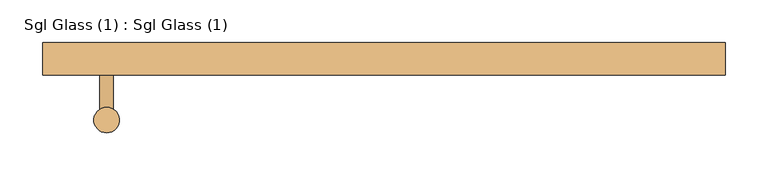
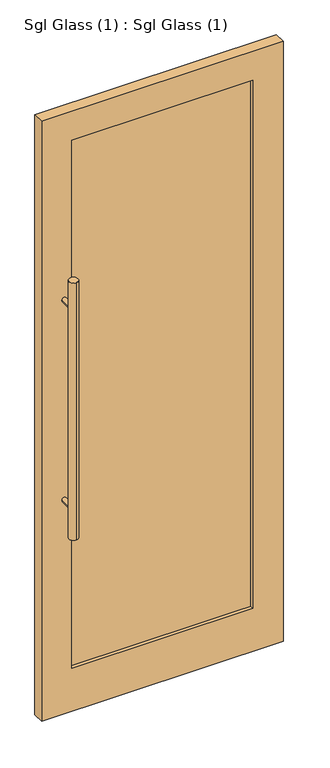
"""IFC4 building model written with IfcOpenShell, lengths in millimetres: door geometry, Sgl Glass (1) : Sgl Glass (1)."""

import ifcopenshell
import ifcopenshell.guid

model = None  # the IFC model being written
_history = None  # IfcOwnerHistory: only IFC2X3 demands one
_inside = {}  # id of a spatial element -> (the spatial element, [elements in it])
_under = {}  # id of a project, library or spatial element -> (it, [spatial elements below it])
_declared = {}  # id of a project -> (the project, [libraries it declares])
_typed = {}  # id of a type object -> (the type object, [elements of that type])
_made_of = {}  # id of a material, layer set ... -> (it, [elements and type objects made of it])


def new_model(schema):
    """Start an empty IFC model of exactly this schema.

    Asked for "IFC4X3", IfcOpenShell would pick the latest addendum, in which some entities
    have other attributes; the version numbers below select the first issue.
    IFC2X3 requires an IfcOwnerHistory on every rooted entity: one is made here for all.
    """
    global model, _history
    if schema == "IFC4X3":
        model = ifcopenshell.file(schema_version=(4, 3, 0, 0))
    else:
        model = ifcopenshell.file(schema=schema)
    _inside.clear()
    _under.clear()
    _declared.clear()
    _typed.clear()
    _made_of.clear()
    _history = None
    if model.schema == "IFC2X3":
        org = make("IfcOrganization", Name="unknown")
        user = make(
            "IfcPersonAndOrganization",
            ThePerson=make("IfcPerson", FamilyName="unknown"),
            TheOrganization=org,
        )
        app = make(
            "IfcApplication",
            ApplicationDeveloper=org,
            Version="unknown",
            ApplicationFullName="unknown",
            ApplicationIdentifier="unknown",
        )
        _history = make(
            "IfcOwnerHistory",
            OwningUser=user,
            OwningApplication=app,
            ChangeAction="ADDED",
            CreationDate=0,
        )
    return model


def make(cls, **values):
    """One entity of the class cls with the attributes given. An attribute that is None is left unset."""
    return model.create_entity(
        cls, **{name: value for name, value in values.items() if value is not None}
    )


def rooted(cls, **values):
    """An entity with a GlobalId (a new one), such as an element, a storey or a relation."""
    return make(cls, GlobalId=ifcopenshell.guid.new(), OwnerHistory=_history, **values)


def si_unit(unit_type, name, prefix=None):
    """IfcSIUnit, for example si_unit("LENGTHUNIT", "METRE", prefix="MILLI")."""
    return make("IfcSIUnit", UnitType=unit_type, Prefix=prefix, Name=name)


def assignment(units):
    """IfcUnitAssignment: the units of a project."""
    return None if units is None else make("IfcUnitAssignment", Units=units)


def point(xyz):
    """IfcCartesianPoint."""
    return None if xyz is None else make("IfcCartesianPoint", Coordinates=xyz)


def direction(xyz):
    """IfcDirection."""
    return None if xyz is None else make("IfcDirection", DirectionRatios=xyz)


def frame(location, z_axis=None, x_axis=None):
    """IfcAxis2Placement3D, a coordinate frame: its origin and axes. An axis left out is left unset."""
    return make(
        "IfcAxis2Placement3D",
        Location=point(location),
        Axis=direction(z_axis),
        RefDirection=direction(x_axis),
    )


def frame_2d(location, x_axis=None):
    """IfcAxis2Placement2D, a coordinate frame in the plane: its origin and x axis."""
    return make(
        "IfcAxis2Placement2D", Location=point(location), RefDirection=direction(x_axis)
    )


def origin():
    """The frame at (0, 0, 0) with its axes left unset."""
    return frame((0.0, 0.0, 0.0))


def place(relative_to, where):
    """IfcLocalPlacement: puts the frame where relative to a parent placement (None: the world)."""
    return make(
        "IfcLocalPlacement", PlacementRelTo=relative_to, RelativePlacement=where
    )


def context(
    kind, dimensions, precision=None, world=None, true_north=None, identifier=None
):
    """IfcGeometricRepresentationContext, for example the 3D "Model" context."""
    return make(
        "IfcGeometricRepresentationContext",
        ContextIdentifier=identifier,
        ContextType=kind,
        CoordinateSpaceDimension=dimensions,
        Precision=precision,
        WorldCoordinateSystem=world,
        TrueNorth=true_north,
    )


def project(units=None, contexts=None):
    """IfcProject with its units and contexts."""
    return rooted(
        "IfcProject",
        Name="project",
        RepresentationContexts=contexts,
        UnitsInContext=assignment(units),
    )


def spatial(cls, under=None, at=None, **own):
    """A site, building, storey or space (cls), placed at a placement, below another one or the project."""
    s = rooted(cls, ObjectPlacement=at, **own)
    if under is not None:
        _under.setdefault(under.id(), (under, []))[1].append(s)
    return s


def polyline(points):
    """IfcPolyline through the points."""
    return make("IfcPolyline", Points=[point(p) for p in points])


def circle_curve(where, radius):
    """IfcCircle in the frame where."""
    return make("IfcCircle", Position=where, Radius=radius)


def trimmed(basis, trim1, trim2, sense, master):
    """IfcTrimmedCurve: the piece of a basis curve between two trims."""
    return make(
        "IfcTrimmedCurve",
        BasisCurve=basis,
        Trim1=trim1,
        Trim2=trim2,
        SenseAgreement=sense,
        MasterRepresentation=master,
    )


def segment(curve, same_sense, transition):
    """IfcCompositeCurveSegment."""
    return make(
        "IfcCompositeCurveSegment",
        Transition=transition,
        SameSense=same_sense,
        ParentCurve=curve,
    )


def composite_curve(segments, self_intersect=None):
    """IfcCompositeCurve: segments joined end to end."""
    return make("IfcCompositeCurve", Segments=segments, SelfIntersect=self_intersect)


def outline(outer, holes=None, kind="AREA"):
    """IfcArbitraryClosedProfileDef: a profile drawn as a closed curve; with holes, ...WithVoids."""
    if holes is None:
        return make("IfcArbitraryClosedProfileDef", ProfileType=kind, OuterCurve=outer)
    return make(
        "IfcArbitraryProfileDefWithVoids",
        ProfileType=kind,
        OuterCurve=outer,
        InnerCurves=holes,
    )


def extrude(swept, where, along, depth):
    """IfcExtrudedAreaSolid: the profile swept, set in the frame where, extruded along a direction by depth."""
    return make(
        "IfcExtrudedAreaSolid",
        SweptArea=swept,
        Position=where,
        ExtrudedDirection=direction(along),
        Depth=depth,
    )


def shape(context_of_items, identifier, shape_type, items):
    """IfcShapeRepresentation: the items that make up one representation, for example the "Body"."""
    return make(
        "IfcShapeRepresentation",
        ContextOfItems=context_of_items,
        RepresentationIdentifier=identifier,
        RepresentationType=shape_type,
        Items=items,
    )


def source(mapping_origin, context_of_items, identifier, shape_type, items):
    """IfcRepresentationMap: a shape defined once, which mapped items show again and again."""
    return make(
        "IfcRepresentationMap",
        MappingOrigin=mapping_origin,
        MappedRepresentation=shape(context_of_items, identifier, shape_type, items),
    )


def transform(
    local_origin,
    x_axis=None,
    y_axis=None,
    z_axis=None,
    scale=None,
    scale2=None,
    scale3=None,
    uniform=True,
):
    """IfcCartesianTransformationOperator3D, or its non-uniform kind. x_axis, y_axis, z_axis: its Axis1, 2, 3."""
    if uniform:
        return make(
            "IfcCartesianTransformationOperator3D",
            Axis1=direction(x_axis),
            Axis2=direction(y_axis),
            LocalOrigin=point(local_origin),
            Scale=scale,
            Axis3=direction(z_axis),
        )
    return make(
        "IfcCartesianTransformationOperator3DnonUniform",
        Axis1=direction(x_axis),
        Axis2=direction(y_axis),
        LocalOrigin=point(local_origin),
        Scale=scale,
        Axis3=direction(z_axis),
        Scale2=scale2,
        Scale3=scale3,
    )


def mapped(mapping_source, mapping_target):
    """IfcMappedItem: shows the shape of a source again, moved by a transform."""
    return make(
        "IfcMappedItem", MappingSource=mapping_source, MappingTarget=mapping_target
    )


def made_of(thing, what):
    """Note that an element or type object is made of a material, layer set ...; save() writes the relation."""
    if what is not None:
        _made_of.setdefault(what.id(), (what, []))[1].append(thing)
    return thing


def element(
    cls,
    number,
    at=None,
    inside=None,
    cuts=None,
    type_object=None,
    material=None,
    context=None,
    identifier="Body",
    shape_type=None,
    held_by="IfcProductDefinitionShape",
    body=None,
    shapes=None,
    **own,
):
    """One element of the class cls, such as IfcWall. Its Tag is "e" and its number.

    at: its placement. inside: the storey or other place that contains it. cuts: it is an
    opening in that element (IfcRelVoidsElement). A single representation is given by context,
    identifier, shape_type and body (its items); several are given by shapes. held_by: the class
    of the entity that holds the representations. save() writes the other relations.
    """
    e = rooted(cls, Tag="e%d" % number, ObjectPlacement=at, **own)
    if body is not None:
        shapes = [shape(context, identifier, shape_type, body)]
    if shapes is not None:
        e.Representation = make(held_by, Representations=shapes)
    if inside is not None:
        _inside.setdefault(inside.id(), (inside, []))[1].append(e)
    if cuts is not None:
        rooted(
            "IfcRelVoidsElement", RelatingBuildingElement=cuts, RelatedOpeningElement=e
        )
    if type_object is not None:
        _typed.setdefault(type_object.id(), (type_object, []))[1].append(e)
    return made_of(e, material)


def aggregate(whole, parts):
    """IfcRelAggregates: a whole, such as a stair, and the parts it consists of."""
    return rooted("IfcRelAggregates", RelatingObject=whole, RelatedObjects=parts)


def save(model, path):
    """Write the relations noted so far, then the file.

    IfcRelAggregates (storeys below a building ...), IfcRelContainedInSpatialStructure (elements
    in a storey), IfcRelDefinesByType, IfcRelAssociatesMaterial and IfcRelDeclares: one each for
    every whole, place, type object, material and project.
    """
    for whole, parts in _under.values():
        aggregate(whole, parts)
    for where, things in _inside.values():
        rooted(
            "IfcRelContainedInSpatialStructure",
            RelatedElements=things,
            RelatingStructure=where,
        )
    for kind, things in _typed.values():
        rooted("IfcRelDefinesByType", RelatedObjects=things, RelatingType=kind)
    for what, things in _made_of.values():
        rooted("IfcRelAssociatesMaterial", RelatedObjects=things, RelatingMaterial=what)
    for by, libraries in _declared.values():
        rooted("IfcRelDeclares", RelatingContext=by, RelatedDefinitions=libraries)
    model.write(path)


def sgl_glass_1_sgl_glass_1_d6d459c3(model_context):
    return source(origin(), model_context, "Body", "SweptSolid", [
        extrude(outline(polyline([(300.0, -50.0), (-300.0, -50.0), (-300.0, -38.0), (300.0, -38.0), (300.0, -50.0)])), frame((0.0, 0.0, 150.0), z_axis=(0.0, 0.0, 1.0), x_axis=(1.0, 0.0, 0.0)), (0.0, 0.0, 1.0), 1850.0),
        extrude(outline(composite_curve([segment(trimmed(circle_curve(frame_2d((-325.0, -116.0)), 15.0), [point((-325.0, -101.0))], [point((-325.0, -131.0))], False, "CARTESIAN"), True, "CONTINUOUS"), segment(trimmed(circle_curve(frame_2d((-325.0, -116.0)), 15.0), [point((-325.0, -131.0))], [point((-325.0, -101.0))], False, "CARTESIAN"), True, "CONTINUOUS")], self_intersect=False)), frame((0.0, 0.0, 650.0), z_axis=(0.0, 0.0, 1.0), x_axis=(1.0, 0.0, 0.0)), (0.0, 0.0, 1.0), 900.0),
        extrude(outline(composite_curve([segment(trimmed(circle_curve(frame_2d((750.0, -325.0)), 8.0), [point((750.0, -317.0))], [point((750.0, -333.0))], False, "CARTESIAN"), True, "CONTINUOUS"), segment(trimmed(circle_curve(frame_2d((750.0, -325.0)), 8.0), [point((750.0, -333.0))], [point((750.0, -317.0))], False, "CARTESIAN"), True, "CONTINUOUS")], self_intersect=False)), frame((0.0, -116.0, 0.0), z_axis=(0.0, 1.0, 0.0), x_axis=(0.0, 0.0, 1.0)), (0.0, 0.0, 1.0), 53.0),
        extrude(outline(composite_curve([segment(trimmed(circle_curve(frame_2d((1450.0, -325.0)), 8.0), [point((1450.0, -317.0))], [point((1450.0, -333.0))], False, "CARTESIAN"), True, "CONTINUOUS"), segment(trimmed(circle_curve(frame_2d((1450.0, -325.0)), 8.0), [point((1450.0, -333.0))], [point((1450.0, -317.0))], False, "CARTESIAN"), True, "CONTINUOUS")], self_intersect=False)), frame((0.0, -116.0, 0.0), z_axis=(0.0, 1.0, 0.0), x_axis=(0.0, 0.0, 1.0)), (0.0, 0.0, 1.0), 53.0),
        extrude(outline(polyline([(0.0, -400.0), (0.0, 400.0), (2100.0, 400.0), (2100.0, -400.0), (0.0, -400.0)]), holes=[polyline([(2000.0, 300.0), (150.0, 300.0), (150.0, -300.0), (2000.0, -300.0), (2000.0, 300.0)])]), frame((0.0, -63.0, 0.0), z_axis=(0.0, 1.0, 0.0), x_axis=(0.0, 0.0, 1.0)), (0.0, 0.0, 1.0), 38.0),
    ])


if __name__ == "__main__":
    model = new_model("IFC4")
    model_context = context("Model", 3, world=origin())
    ifc_project = project(units=[si_unit("LENGTHUNIT", "METRE", prefix="MILLI")], contexts=[model_context])
    site = spatial("IfcSite", under=ifc_project)
    building = spatial("IfcBuilding", under=site)
    placement = place(None, origin())
    sgl_glass_1_sgl_glass_1_shape = sgl_glass_1_sgl_glass_1_d6d459c3(model_context)
    element("IfcDoor", 1, ObjectType="Sgl Glass (1) : Sgl Glass (1)", at=placement, inside=building, context=model_context, shape_type="MappedRepresentation", body=[
        mapped(sgl_glass_1_sgl_glass_1_shape, transform((0.0, 0.0, 0.0), x_axis=(1.0, 0.0, 0.0), y_axis=(0.0, 1.0, 0.0), z_axis=(0.0, 0.0, 1.0))),
    ])
    save(model, "model.ifc")
